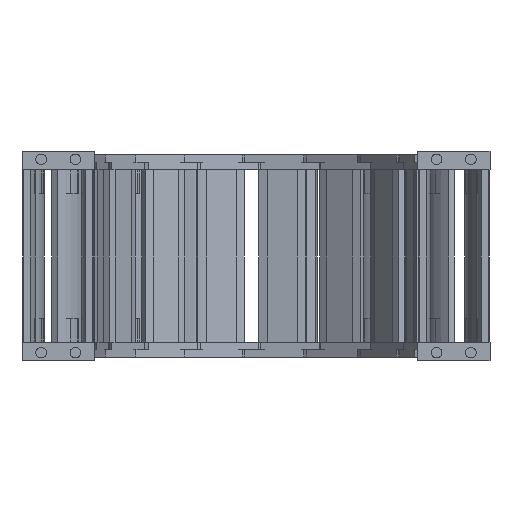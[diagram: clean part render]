
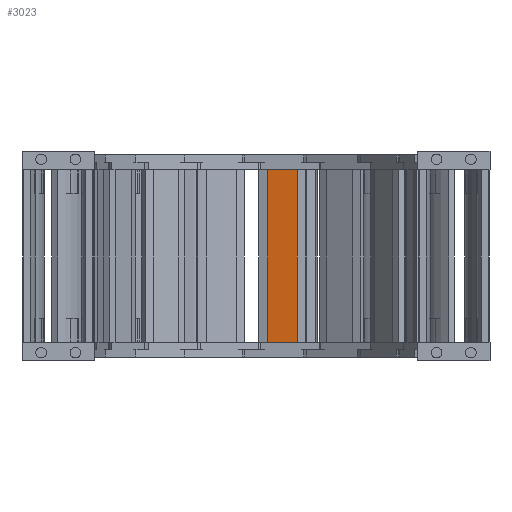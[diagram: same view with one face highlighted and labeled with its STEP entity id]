
A CAD part, left-side view. The second image highlights one B-rep face of the part: STEP entity #3023.
In plain terms, the highlighted planar face has unit normal (-0.986, 0.164, 0) as drawn and (0, 1, 0) by its records, which use the part's own axes.
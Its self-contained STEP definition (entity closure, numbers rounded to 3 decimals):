
#2766=DIRECTION('',(1.,0.,0.));
#2767=VECTOR('',#2766,23.);
#2768=CARTESIAN_POINT('',(-11.5,3.,118.));
#2769=LINE('',#2768,#2767);
#2815=DIRECTION('',(0.,0.,-1.));
#2816=VECTOR('',#2815,130.5);
#2817=CARTESIAN_POINT('',(11.5,3.,118.));
#2818=LINE('',#2817,#2816);
#2837=DIRECTION('',(-1.,0.,0.));
#2838=VECTOR('',#2837,23.);
#2839=CARTESIAN_POINT('',(11.5,3.,-12.5));
#2840=LINE('',#2839,#2838);
#2851=DIRECTION('',(0.,0.,-1.));
#2852=VECTOR('',#2851,130.5);
#2853=CARTESIAN_POINT('',(-11.5,3.,118.));
#2854=LINE('',#2853,#2852);
#2878=CARTESIAN_POINT('',(11.5,3.,118.));
#2879=VERTEX_POINT('',#2878);
#2882=CARTESIAN_POINT('',(-11.5,3.,118.));
#2883=VERTEX_POINT('',#2882);
#2890=CARTESIAN_POINT('',(11.5,3.,-12.5));
#2891=VERTEX_POINT('',#2890);
#2892=CARTESIAN_POINT('',(-11.5,3.,-12.5));
#2893=VERTEX_POINT('',#2892);
#3011=CARTESIAN_POINT('',(15.5,3.,68.));
#3012=DIRECTION('',(0.,1.,0.));
#3013=DIRECTION('',(-1.,0.,0.));
#3014=AXIS2_PLACEMENT_3D('',#3011,#3012,#3013);
#3015=PLANE('',#3014);
#3017=ORIENTED_EDGE('',*,*,#3016,.T.);
#3018=ORIENTED_EDGE('',*,*,#2995,.F.);
#3019=ORIENTED_EDGE('',*,*,#2975,.F.);
#3020=ORIENTED_EDGE('',*,*,#2907,.F.);
#3021=EDGE_LOOP('',(#3017,#3018,#3019,#3020));
#3022=FACE_OUTER_BOUND('',#3021,.F.);
#3023=ADVANCED_FACE('',(#3022),#3015,.T.);
#2907=EDGE_CURVE('',#2883,#2879,#2769,.T.);
#2975=EDGE_CURVE('',#2879,#2891,#2818,.T.);
#2995=EDGE_CURVE('',#2891,#2893,#2840,.T.);
#3016=EDGE_CURVE('',#2883,#2893,#2854,.T.);
